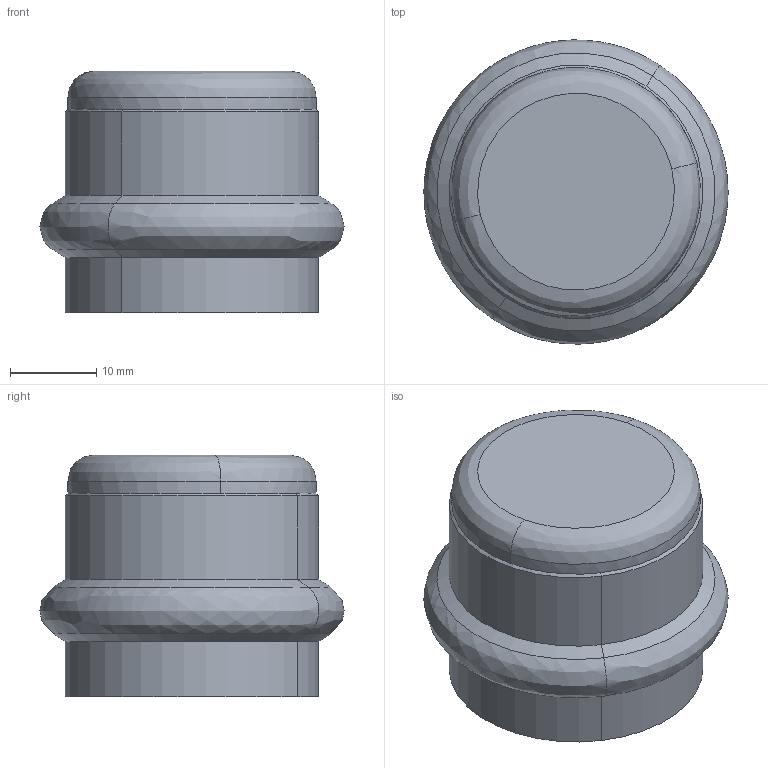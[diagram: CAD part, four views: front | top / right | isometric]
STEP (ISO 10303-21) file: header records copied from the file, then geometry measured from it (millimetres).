
FILE_DESCRIPTION(('STEP AP214'),'1');
FILE_NAME('pim0004609.stp','2017-05-10T06:40:41',('cad-pim'),('TransMagic, Inc.'),'TMR12sp0','TransMagic R12',' ');
FILE_SCHEMA(('AUTOMOTIVE_DESIGN'));
Length unit declared in the file: millimetre
Products named in the file (1): pim0004609 (1)
Bounding box: 35.24 x 35.23 x 28 mm (x, y, z)
Volume: 8578.6 mm3; surface area: 5985.4 mm2
Topology: 1 solids, 1 shells, 21 faces, 42 edges, 24 vertices
Faces by surface type: bspline 21
Entity records: 1172 total; most frequent: CARTESIAN_POINT 287, STYLED_ITEM 88, PRESENTATION_STYLE_ASSIGNMENT 88, COLOUR_RGB 88, ORIENTED_EDGE 84, DIRECTION 64, EDGE_CURVE 42, CURVE_STYLE 42
